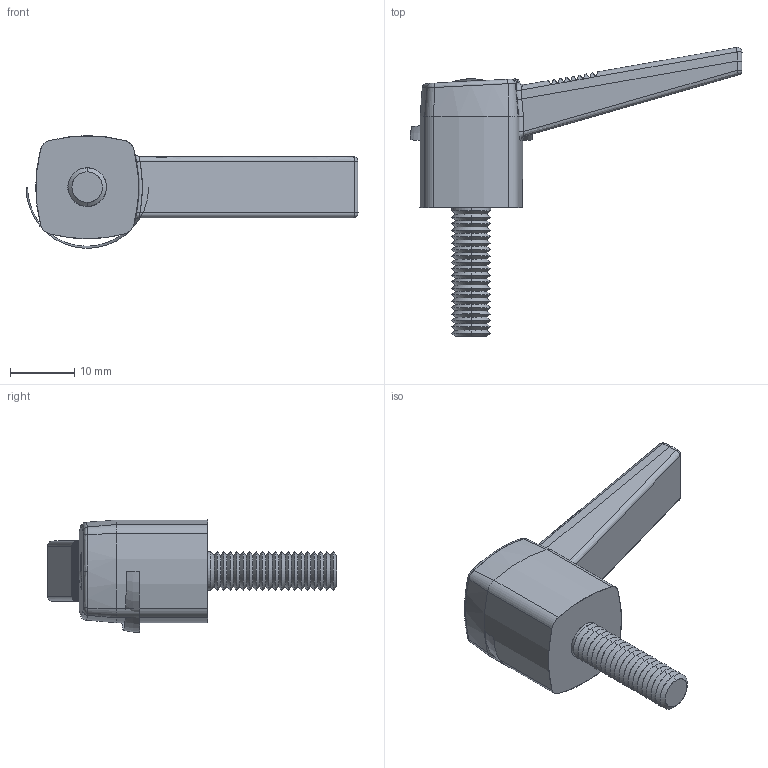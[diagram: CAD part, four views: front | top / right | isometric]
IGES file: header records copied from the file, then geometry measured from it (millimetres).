
Start section: SolidWorks IGES file using analytic representation for surfaces
Global section: file name: C:\Documents and Settings\IANO\Desktop\Temp File\Process pending\PCN pending\74970_v2\74970_v2_20161101_IGES\74970.W0042.igs; native system: SolidWorks 2009; preprocessor: SolidWorks 2009; author: IANO; date: 170306.084652; units: millimetre
Bounding box: 51.5 x 44.86 x 17.5 mm (x, y, z)
Surface area: 3460.4 mm2 (no closed solid volume)
Topology: 0 solids, 0 shells, 203 faces, 1414 edges, 1411 vertices
Faces by surface type: revolution 137, bspline 66
